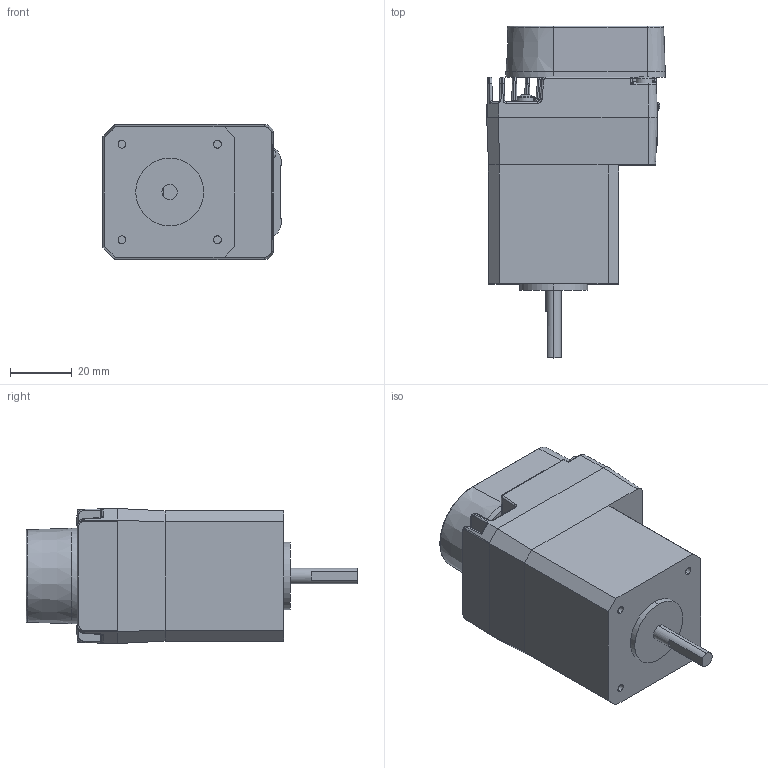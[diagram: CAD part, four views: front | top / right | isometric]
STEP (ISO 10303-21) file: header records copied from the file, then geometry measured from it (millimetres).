
FILE_DESCRIPTION((''),'2;1');
FILE_NAME('CU_ISM-7400E','2013-09-26T',('jbuhisan'),(''),'PRO/ENGINEER BY PARAMETRIC TECHNOLOGY CORPORATION, 2011490','PRO/ENGINEER BY PARAMETRIC TECHNOLOGY CORPORATION, 2011490','');
FILE_SCHEMA(('CONFIG_CONTROL_DESIGN'));
Products named in the file (1): CU_ISM-7400E
Bounding box: 57.97 x 107.69 x 43.82 mm (x, y, z)
Volume: 108296.7 mm3; surface area: 50155.9 mm2
Topology: 2 solids, 2 shells, 3506 faces, 9302 edges, 5788 vertices
Faces by surface type: plane 2097, cylinder 728, cone 338, bspline 212, torus 53, sphere 41, extrusion 37
Entity records: 138536 total; most frequent: CARTESIAN_POINT 52956, ORIENTED_EDGE 18374, DIRECTION 16781, EDGE_CURVE 9187, VECTOR 6453, LINE 6416, VERTEX_POINT 5788, AXIS2_PLACEMENT_3D 5164
